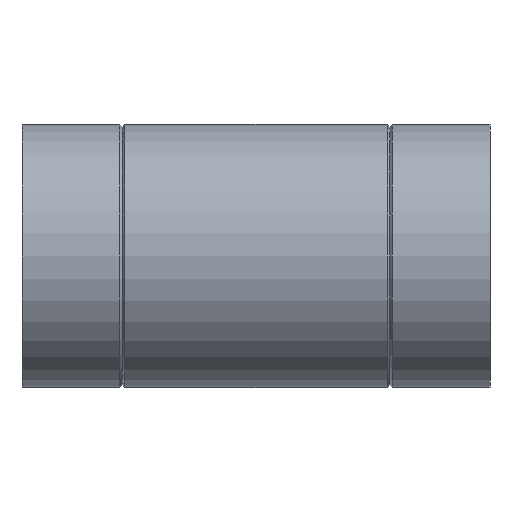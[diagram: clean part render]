
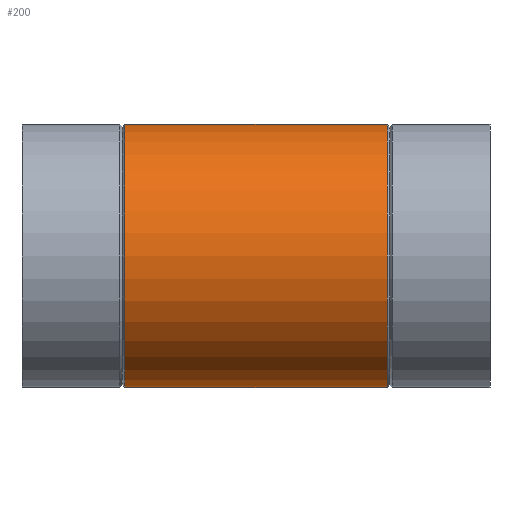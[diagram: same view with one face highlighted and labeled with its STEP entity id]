
A CAD part, left-side view. The second image highlights one B-rep face of the part: STEP entity #200.
In plain terms, the highlighted cylindrical face has radius 157.5 mm (diameter 315 mm), a full revolution.
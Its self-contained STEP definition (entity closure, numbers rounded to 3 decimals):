
#15=B_SPLINE_CURVE_WITH_KNOTS($,3,(#325,#326,#327,#328,#329,#330,#331,#332,
#333,#334,#335,#336,#337,#338,#339,#340,#341,#342,#343,#344,#345,#346,#347,
#348,#349,#350,#351,#352,#353,#354,#355,#356,#357,#358,#359,#360,#361,#362,
#363,#364,#365,#366,#367,#368,#369,#370,#371,#372,#373,#374,#375,#376,#377,
#378,#379,#380,#381,#382,#383,#384,#385,#386,#387,#388,#389,#390),
 .UNSPECIFIED.,.T.,.F.,(4,2,2,2,2,2,2,2,2,2,2,2,2,2,2,2,2,2,2,2,2,2,2,2,
2,2,2,2,2,2,2,2,4),(0.,1.976,3.951,5.927,
7.902,9.847,11.792,13.736,15.681,
17.626,19.57,21.515,23.46,25.435,
27.411,29.386,31.362,33.309,35.256,
37.203,39.15,41.094,43.037,44.98,
46.923,48.866,50.809,52.752,54.695,
56.643,58.59,60.537,62.484),
 .UNSPECIFIED.);
#17=CYLINDRICAL_SURFACE($,#222,157.5);
#26=FACE_BOUND($,#63,.T.);
#27=FACE_BOUND($,#64,.T.);
#48=FACE_OUTER_BOUND($,#62,.T.);
#62=EDGE_LOOP($,(#145));
#63=EDGE_LOOP($,(#146));
#64=EDGE_LOOP($,(#147));
#94=CIRCLE($,#221,157.5);
#95=CIRCLE($,#223,157.5);
#109=VERTEX_POINT($,#319);
#110=VERTEX_POINT($,#322);
#111=VERTEX_POINT($,#324);
#126=EDGE_CURVE($,#109,#109,#94,.T.);
#127=EDGE_CURVE($,#110,#110,#95,.T.);
#128=EDGE_CURVE($,#111,#111,#15,.T.);
#145=ORIENTED_EDGE($,*,*,#127,.T.);
#146=ORIENTED_EDGE($,*,*,#128,.T.);
#147=ORIENTED_EDGE($,*,*,#126,.T.);
#200=ADVANCED_FACE($,(#48,#26,#27),#17,.T.);
#221=AXIS2_PLACEMENT_3D($,#320,#258,#259);
#222=AXIS2_PLACEMENT_3D($,#321,#260,#261);
#223=AXIS2_PLACEMENT_3D($,#323,#262,#263);
#258=DIRECTION('center_axis',(0.,-1.,0.));
#259=DIRECTION('ref_axis',(1.,0.,0.));
#260=DIRECTION('center_axis',(0.,1.,0.));
#261=DIRECTION('ref_axis',(1.,0.,0.));
#262=DIRECTION('center_axis',(0.,1.,0.));
#263=DIRECTION('ref_axis',(1.,0.,0.));
#319=CARTESIAN_POINT('',(157.5,436.85,0.));
#320=CARTESIAN_POINT('Origin',(0.,436.85,0.));
#321=CARTESIAN_POINT('Origin',(0.,0.,0.));
#322=CARTESIAN_POINT('',(-157.5,123.15,0.));
#323=CARTESIAN_POINT('Origin',(0.,123.15,0.));
#324=CARTESIAN_POINT('',(121.681,283.186,100.));
#325=CARTESIAN_POINT('Ctrl Pts',(121.681,283.186,100.));
#326=CARTESIAN_POINT('Ctrl Pts',(121.681,289.772,100.));
#327=CARTESIAN_POINT('Ctrl Pts',(122.231,296.477,99.341));
#328=CARTESIAN_POINT('Ctrl Pts',(124.342,309.657,96.686));
#329=CARTESIAN_POINT('Ctrl Pts',(125.896,316.132,94.692));
#330=CARTESIAN_POINT('Ctrl Pts',(129.623,328.462,89.523));
#331=CARTESIAN_POINT('Ctrl Pts',(131.793,334.329,86.344));
#332=CARTESIAN_POINT('Ctrl Pts',(136.288,345.168,79.058));
#333=CARTESIAN_POINT('Ctrl Pts',(138.61,350.139,74.95));
#334=CARTESIAN_POINT('Ctrl Pts',(142.956,358.896,66.279));
#335=CARTESIAN_POINT('Ctrl Pts',(145.15,363.019,61.404));
#336=CARTESIAN_POINT('Ctrl Pts',(149.222,370.365,50.713));
#337=CARTESIAN_POINT('Ctrl Pts',(151.098,373.589,44.896));
#338=CARTESIAN_POINT('Ctrl Pts',(154.208,378.824,32.649));
#339=CARTESIAN_POINT('Ctrl Pts',(155.445,380.839,26.205));
#340=CARTESIAN_POINT('Ctrl Pts',(157.091,383.507,13.122));
#341=CARTESIAN_POINT('Ctrl Pts',(157.5,384.159,6.482));
#342=CARTESIAN_POINT('Ctrl Pts',(157.5,384.159,-6.482));
#343=CARTESIAN_POINT('Ctrl Pts',(157.091,383.507,-13.122));
#344=CARTESIAN_POINT('Ctrl Pts',(155.445,380.839,-26.205));
#345=CARTESIAN_POINT('Ctrl Pts',(154.208,378.824,-32.649));
#346=CARTESIAN_POINT('Ctrl Pts',(151.098,373.589,-44.896));
#347=CARTESIAN_POINT('Ctrl Pts',(149.222,370.365,-50.713));
#348=CARTESIAN_POINT('Ctrl Pts',(145.15,363.019,-61.404));
#349=CARTESIAN_POINT('Ctrl Pts',(142.956,358.896,-66.279));
#350=CARTESIAN_POINT('Ctrl Pts',(138.61,350.139,-74.95));
#351=CARTESIAN_POINT('Ctrl Pts',(136.288,345.168,-79.058));
#352=CARTESIAN_POINT('Ctrl Pts',(131.793,334.329,-86.344));
#353=CARTESIAN_POINT('Ctrl Pts',(129.623,328.462,-89.523));
#354=CARTESIAN_POINT('Ctrl Pts',(125.896,316.132,-94.692));
#355=CARTESIAN_POINT('Ctrl Pts',(124.342,309.657,-96.686));
#356=CARTESIAN_POINT('Ctrl Pts',(122.231,296.477,-99.341));
#357=CARTESIAN_POINT('Ctrl Pts',(121.681,289.772,-100.));
#358=CARTESIAN_POINT('Ctrl Pts',(121.681,276.696,-100.));
#359=CARTESIAN_POINT('Ctrl Pts',(122.216,270.082,-99.359));
#360=CARTESIAN_POINT('Ctrl Pts',(124.293,257.092,-96.748));
#361=CARTESIAN_POINT('Ctrl Pts',(125.83,250.715,-94.779));
#362=CARTESIAN_POINT('Ctrl Pts',(129.529,238.596,-89.658));
#363=CARTESIAN_POINT('Ctrl Pts',(131.689,232.84,-86.501));
#364=CARTESIAN_POINT('Ctrl Pts',(136.17,222.228,-79.26));
#365=CARTESIAN_POINT('Ctrl Pts',(138.487,217.372,-75.174));
#366=CARTESIAN_POINT('Ctrl Pts',(142.855,208.779,-66.5));
#367=CARTESIAN_POINT('Ctrl Pts',(145.072,204.723,-61.592));
#368=CARTESIAN_POINT('Ctrl Pts',(149.181,197.517,-50.836));
#369=CARTESIAN_POINT('Ctrl Pts',(151.072,194.367,-44.988));
#370=CARTESIAN_POINT('Ctrl Pts',(154.201,189.264,-32.69));
#371=CARTESIAN_POINT('Ctrl Pts',(155.441,187.306,-26.227));
#372=CARTESIAN_POINT('Ctrl Pts',(157.091,184.719,-13.121));
#373=CARTESIAN_POINT('Ctrl Pts',(157.5,184.09,-6.477));
#374=CARTESIAN_POINT('Ctrl Pts',(157.5,184.09,6.477));
#375=CARTESIAN_POINT('Ctrl Pts',(157.091,184.719,13.121));
#376=CARTESIAN_POINT('Ctrl Pts',(155.441,187.306,26.227));
#377=CARTESIAN_POINT('Ctrl Pts',(154.201,189.264,32.69));
#378=CARTESIAN_POINT('Ctrl Pts',(151.072,194.367,44.988));
#379=CARTESIAN_POINT('Ctrl Pts',(149.181,197.517,50.836));
#380=CARTESIAN_POINT('Ctrl Pts',(145.072,204.723,61.592));
#381=CARTESIAN_POINT('Ctrl Pts',(142.855,208.779,66.5));
#382=CARTESIAN_POINT('Ctrl Pts',(138.487,217.372,75.174));
#383=CARTESIAN_POINT('Ctrl Pts',(136.17,222.228,79.26));
#384=CARTESIAN_POINT('Ctrl Pts',(131.689,232.84,86.501));
#385=CARTESIAN_POINT('Ctrl Pts',(129.529,238.596,89.658));
#386=CARTESIAN_POINT('Ctrl Pts',(125.83,250.715,94.779));
#387=CARTESIAN_POINT('Ctrl Pts',(124.293,257.092,96.748));
#388=CARTESIAN_POINT('Ctrl Pts',(122.216,270.082,99.359));
#389=CARTESIAN_POINT('Ctrl Pts',(121.681,276.696,100.));
#390=CARTESIAN_POINT('Ctrl Pts',(121.681,283.186,100.));
